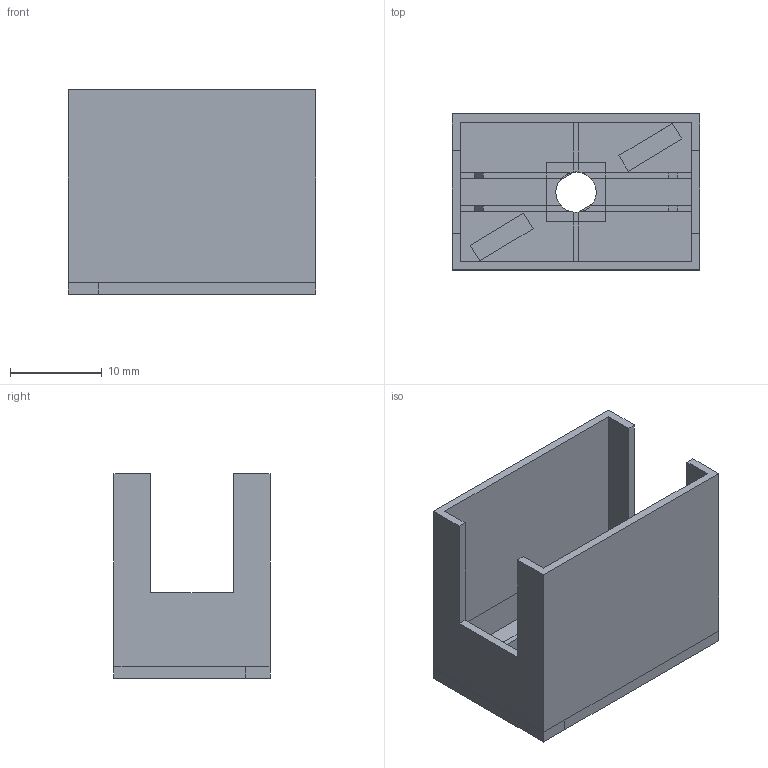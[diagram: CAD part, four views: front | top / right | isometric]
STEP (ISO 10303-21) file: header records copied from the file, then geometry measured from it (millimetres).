
FILE_DESCRIPTION(('FreeCAD Model'),'2;1');
FILE_NAME('Open CASCADE Shape Model','2025-03-10T19:19:15',(''),(''), 'Open CASCADE STEP processor 7.8','FreeCAD','Unknown');
FILE_SCHEMA(('AUTOMOTIVE_DESIGN { 1 0 10303 214 1 1 1 1 }'));
Length unit declared in the file: millimetre
Products named in the file (6): Diagonal_mit_Taster; Body; Fahrstrasse_2; Fahrstrasse_1; Ausleuchtung_1; Ausleuchtung_2
Assembly tree (5 placements, depth 2):
  Diagonal_mit_Taster
    Body
    Fahrstrasse_2
    Fahrstrasse_1
    Ausleuchtung_1
    Ausleuchtung_2
Bounding box: 27 x 17 x 22.3 mm (x, y, z)
Volume: 2391 mm3; surface area: 4796.6 mm2
Topology: 5 solids, 5 shells, 139 faces, 345 edges, 214 vertices
Faces by surface type: plane 136, cylinder 3
Full cylindrical faces by diameter (mm): 4.4 x1
Entity records: 4164 total; most frequent: CARTESIAN_POINT 704, ORIENTED_EDGE 690, DIRECTION 659, EDGE_CURVE 345, LINE 321, VECTOR 321, VERTEX_POINT 214, AXIS2_PLACEMENT_3D 169
